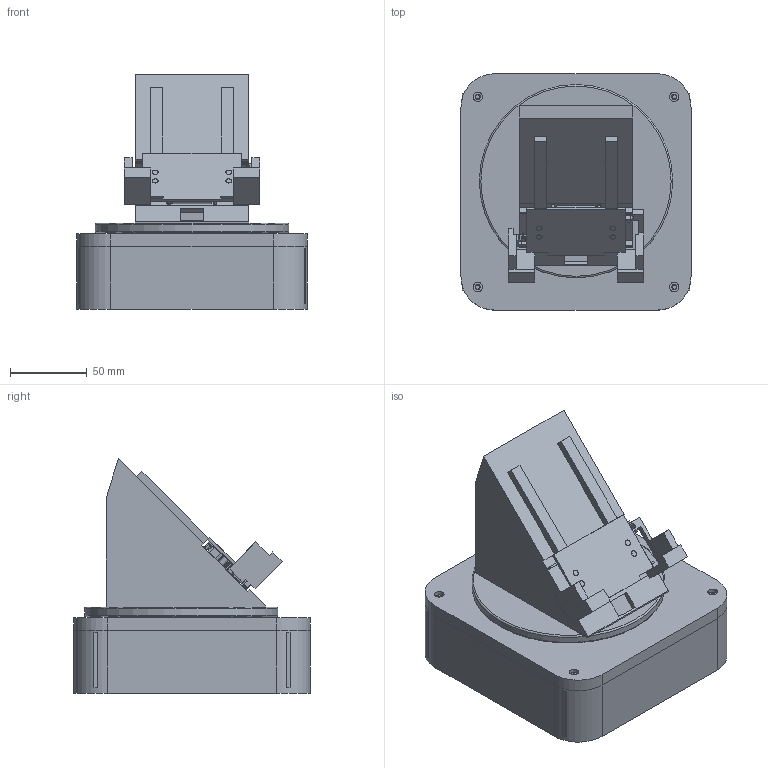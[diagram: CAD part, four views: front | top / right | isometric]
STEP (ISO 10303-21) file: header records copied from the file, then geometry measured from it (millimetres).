
FILE_DESCRIPTION(('Open CASCADE Model'),'2;1');
FILE_NAME('Open CASCADE Shape Model','2026-11-24T20:33:49',('Author'),( 'Open CASCADE'),'Open CASCADE STEP processor 7.8','Open CASCADE 7.8' ,'Unknown');
FILE_SCHEMA(('AUTOMOTIVE_DESIGN { 1 0 10303 214 1 1 1 1 }'));
Length unit declared in the file: millimetre
Products named in the file (27): HachimoDock_R03; 01_Base; 02_Base_Lid; 03_Rotor; 07_Driven_48T; 08_Servo_24T; 09_Shaft_Spacer; 04_Wedge_45deg; 05_Jaw_Left; 06_Jaw_Right; 10_Clamp_Cover; 11_Clamp_Pinion; REF_Stop_Right_1; REF_Stop_Left_1; REF_Stop_Right_2; REF_Stop_Left_2; REF_Pinion_Shaft; REF_Cover_Screw_1; REF_Cover_Screw_2; REF_Cover_Screw_3; REF_Cover_Screw_4; REF_Spring_Right; REF_Spring_Left; REF_Fixed_Eye_Right; REF_Fixed_Eye_Left; REF_Moving_Eye_Right; REF_Moving_Eye_Left
Assembly tree (26 placements, depth 2):
  HachimoDock_R03
    01_Base
    02_Base_Lid
    03_Rotor
    07_Driven_48T
    08_Servo_24T
    09_Shaft_Spacer
    04_Wedge_45deg
    05_Jaw_Left
    06_Jaw_Right
    10_Clamp_Cover
    11_Clamp_Pinion
    REF_Stop_Right_1
    REF_Stop_Left_1
    REF_Stop_Right_2
    REF_Stop_Left_2
    REF_Pinion_Shaft
    REF_Cover_Screw_1
    REF_Cover_Screw_2
    REF_Cover_Screw_3
    REF_Cover_Screw_4
    REF_Spring_Right
    REF_Spring_Left
    REF_Fixed_Eye_Right
    REF_Fixed_Eye_Left
    REF_Moving_Eye_Right
    REF_Moving_Eye_Left
Bounding box: 150 x 154 x 153 mm (x, y, z)
Volume: 545560.4 mm3; surface area: 257184.7 mm2
Topology: 26 solids, 26 shells, 1602 faces, 4413 edges, 2938 vertices
Faces by surface type: plane 1462, cylinder 126, cone 12, torus 2
Full cylindrical faces by diameter (mm): 1.6 x4, 1.7 x4, 1.82 x4, 1.9 x6, 2.1 x2, 2.16 x6, 2.24 x4, 2.3 x4, 2.34 x1, 2.4 x3, 2.44 x1, 2.7 x8, 2.72 x2, 2.76 x4, 2.8 x1, 3 x4, 3.18 x1, 3.2 x2, 3.26 x1, 3.3 x4, 3.32 x4, 3.8 x4, 5.3 x1, 6.2 x4, 8.3 x2, 10.2 x4, 15 x2, 15.779 x2, 24.82 x1, 25.04 x1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
Entity records: 106443 total; most frequent: CARTESIAN_POINT 19971, DIRECTION 14830, LINE 10632, VECTOR 10632, ORIENTED_EDGE 8826, PCURVE 8826, DEFINITIONAL_REPRESENTATION 8826, EDGE_CURVE 4413
